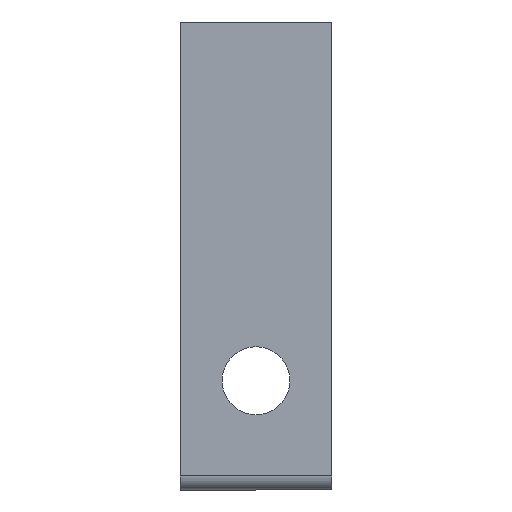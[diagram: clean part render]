
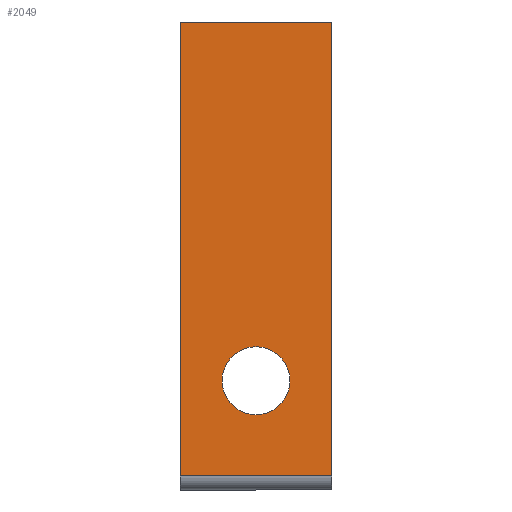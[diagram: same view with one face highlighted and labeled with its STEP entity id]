
A CAD part, front view. The second image highlights one B-rep face of the part: STEP entity #2049.
In plain terms, the highlighted planar face has unit normal (0, -1, 0).
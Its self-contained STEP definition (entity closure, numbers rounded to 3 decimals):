
#6 = DIRECTION ( 'NONE',  ( 0., 0., 1. ) ) ;
#30 = CARTESIAN_POINT ( 'NONE',  ( 40., -3., 0. ) ) ;
#100 = EDGE_CURVE ( 'NONE', #589, #418, #1813, .T. ) ;
#170 = ORIENTED_EDGE ( 'NONE', *, *, #1384, .F. ) ;
#188 = VERTEX_POINT ( 'NONE', #1027 ) ;
#205 = EDGE_CURVE ( 'NONE', #188, #1214, #643, .T. ) ;
#217 = VERTEX_POINT ( 'NONE', #679 ) ;
#221 = VECTOR ( 'NONE', #1212, 1000. ) ;
#323 = ORIENTED_EDGE ( 'NONE', *, *, #100, .T. ) ;
#398 = EDGE_CURVE ( 'NONE', #1214, #217, #934, .T. ) ;
#418 = VERTEX_POINT ( 'NONE', #1905 ) ;
#422 = DIRECTION ( 'NONE',  ( 1., 0., 0. ) ) ;
#446 = AXIS2_PLACEMENT_3D ( 'NONE', #1004, #2034, #1848 ) ;
#452 = FACE_BOUND ( 'NONE', #869, .T. ) ;
#589 = VERTEX_POINT ( 'NONE', #1326 ) ;
#643 = LINE ( 'NONE', #1000, #1942 ) ;
#679 = CARTESIAN_POINT ( 'NONE',  ( 40., -3., -1. ) ) ;
#738 = CARTESIAN_POINT ( 'NONE',  ( 0., -3., -1. ) ) ;
#768 = AXIS2_PLACEMENT_3D ( 'NONE', #1689, #2027, #1359 ) ;
#792 = CIRCLE ( 'NONE', #1430, 9. ) ;
#831 = ORIENTED_EDGE ( 'NONE', *, *, #398, .F. ) ;
#834 = DIRECTION ( 'NONE',  ( 0., 0., 1. ) ) ;
#869 = EDGE_LOOP ( 'NONE', ( #1639, #323 ) ) ;
#934 = LINE ( 'NONE', #1397, #221 ) ;
#954 = VECTOR ( 'NONE', #1065, 1000. ) ;
#1000 = CARTESIAN_POINT ( 'NONE',  ( 0., -3., 0. ) ) ;
#1004 = CARTESIAN_POINT ( 'NONE',  ( 20., -3., -96. ) ) ;
#1027 = CARTESIAN_POINT ( 'NONE',  ( 0., -3., -121.186 ) ) ;
#1065 = DIRECTION ( 'NONE',  ( 0., 0., -1. ) ) ;
#1182 = PLANE ( 'NONE',  #768 ) ;
#1196 = FACE_OUTER_BOUND ( 'NONE', #1365, .T. ) ;
#1212 = DIRECTION ( 'NONE',  ( 1., 0., 0. ) ) ;
#1214 = VERTEX_POINT ( 'NONE', #738 ) ;
#1321 = CARTESIAN_POINT ( 'NONE',  ( 40., -3., -121.186 ) ) ;
#1326 = CARTESIAN_POINT ( 'NONE',  ( 20., -3., -105. ) ) ;
#1359 = DIRECTION ( 'NONE',  ( 0., 0., -1. ) ) ;
#1365 = EDGE_LOOP ( 'NONE', ( #831, #1549, #2024, #170 ) ) ;
#1373 = EDGE_CURVE ( 'NONE', #188, #1877, #2129, .T. ) ;
#1384 = EDGE_CURVE ( 'NONE', #217, #1877, #1941, .T. ) ;
#1397 = CARTESIAN_POINT ( 'NONE',  ( 0., -3., -1. ) ) ;
#1430 = AXIS2_PLACEMENT_3D ( 'NONE', #1881, #1874, #6 ) ;
#1445 = CARTESIAN_POINT ( 'NONE',  ( 0., -3., -121.186 ) ) ;
#1549 = ORIENTED_EDGE ( 'NONE', *, *, #205, .F. ) ;
#1575 = VECTOR ( 'NONE', #422, 1000. ) ;
#1639 = ORIENTED_EDGE ( 'NONE', *, *, #1946, .T. ) ;
#1689 = CARTESIAN_POINT ( 'NONE',  ( 0., -3., 0. ) ) ;
#1813 = CIRCLE ( 'NONE', #446, 9. ) ;
#1848 = DIRECTION ( 'NONE',  ( 0., 0., 1. ) ) ;
#1874 = DIRECTION ( 'NONE',  ( 0., 1., 0. ) ) ;
#1877 = VERTEX_POINT ( 'NONE', #1321 ) ;
#1881 = CARTESIAN_POINT ( 'NONE',  ( 20., -3., -96. ) ) ;
#1905 = CARTESIAN_POINT ( 'NONE',  ( 20., -3., -87. ) ) ;
#1941 = LINE ( 'NONE', #30, #954 ) ;
#1942 = VECTOR ( 'NONE', #834, 1000. ) ;
#1946 = EDGE_CURVE ( 'NONE', #418, #589, #792, .T. ) ;
#2024 = ORIENTED_EDGE ( 'NONE', *, *, #1373, .T. ) ;
#2027 = DIRECTION ( 'NONE',  ( 0., -1., 0. ) ) ;
#2034 = DIRECTION ( 'NONE',  ( 0., 1., 0. ) ) ;
#2049 = ADVANCED_FACE ( 'NONE', ( #1196, #452 ), #1182, .T. ) ;
#2129 = LINE ( 'NONE', #1445, #1575 ) ;
